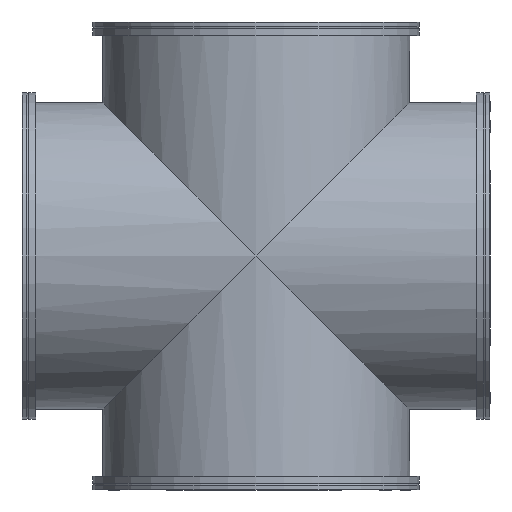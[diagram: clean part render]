
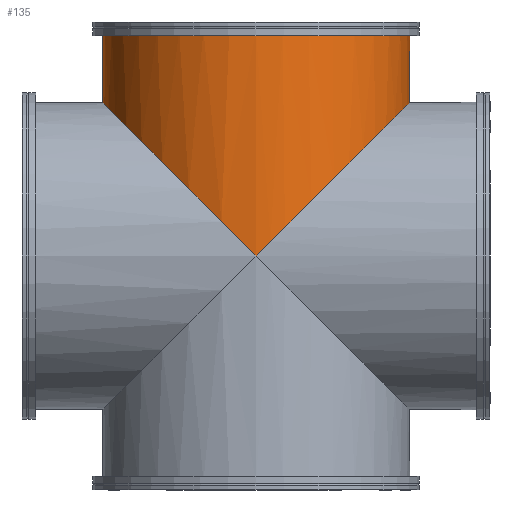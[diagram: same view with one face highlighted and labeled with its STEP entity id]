
A CAD part, front view. The second image highlights one B-rep face of the part: STEP entity #135.
In plain terms, the highlighted cylindrical face has radius 136.5 mm (diameter 273 mm), a full revolution.
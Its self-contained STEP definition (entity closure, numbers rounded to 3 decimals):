
#135 = ADVANCED_FACE( '', ( #246, #247 ), #248, .T. );
#246 = FACE_OUTER_BOUND( '', #356, .T. );
#247 = FACE_OUTER_BOUND( '', #357, .T. );
#248 = CYLINDRICAL_SURFACE( '', #358, 136.5 );
#356 = EDGE_LOOP( '', ( #474, #475 ) );
#357 = EDGE_LOOP( '', ( #476 ) );
#358 = AXIS2_PLACEMENT_3D( '', #477, #478, #479 );
#474 = ORIENTED_EDGE( '', *, *, #596, .F. );
#475 = ORIENTED_EDGE( '', *, *, #577, .F. );
#476 = ORIENTED_EDGE( '', *, *, #597, .T. );
#477 = CARTESIAN_POINT( '', ( 0., 0., 200.5 ) );
#478 = DIRECTION( '', ( 0., 0., 1. ) );
#479 = DIRECTION( '', ( -1., 0., 0. ) );
#577 = EDGE_CURVE( '', #633, #634, #635, .T. );
#596 = EDGE_CURVE( '', #634, #633, #664, .T. );
#597 = EDGE_CURVE( '', #665, #665, #666, .T. );
#633 = VERTEX_POINT( '', #709 );
#634 = VERTEX_POINT( '', #710 );
#635 = ELLIPSE( '', #711, 193.04, 136.5 );
#664 = ELLIPSE( '', #740, 193.04, 136.5 );
#665 = VERTEX_POINT( '', #741 );
#666 = CIRCLE( '', #742, 136.5 );
#709 = CARTESIAN_POINT( '', ( 0., 136.5, 0. ) );
#710 = CARTESIAN_POINT( '', ( 0., -136.5, 0. ) );
#711 = AXIS2_PLACEMENT_3D( '', #786, #787, #788 );
#740 = AXIS2_PLACEMENT_3D( '', #822, #823, #824 );
#741 = CARTESIAN_POINT( '', ( 136.5, 0., 200.5 ) );
#742 = AXIS2_PLACEMENT_3D( '', #825, #826, #827 );
#786 = CARTESIAN_POINT( '', ( 0., 0., 0. ) );
#787 = DIRECTION( '', ( 0.707, 0., -0.707 ) );
#788 = DIRECTION( '', ( -0.707, 0., -0.707 ) );
#822 = CARTESIAN_POINT( '', ( 0., 0., 0. ) );
#823 = DIRECTION( '', ( -0.707, 0., -0.707 ) );
#824 = DIRECTION( '', ( 0.707, 0., -0.707 ) );
#825 = CARTESIAN_POINT( '', ( 0., 0., 200.5 ) );
#826 = DIRECTION( '', ( 0., 0., -1. ) );
#827 = DIRECTION( '', ( 1., 0., 0. ) );
